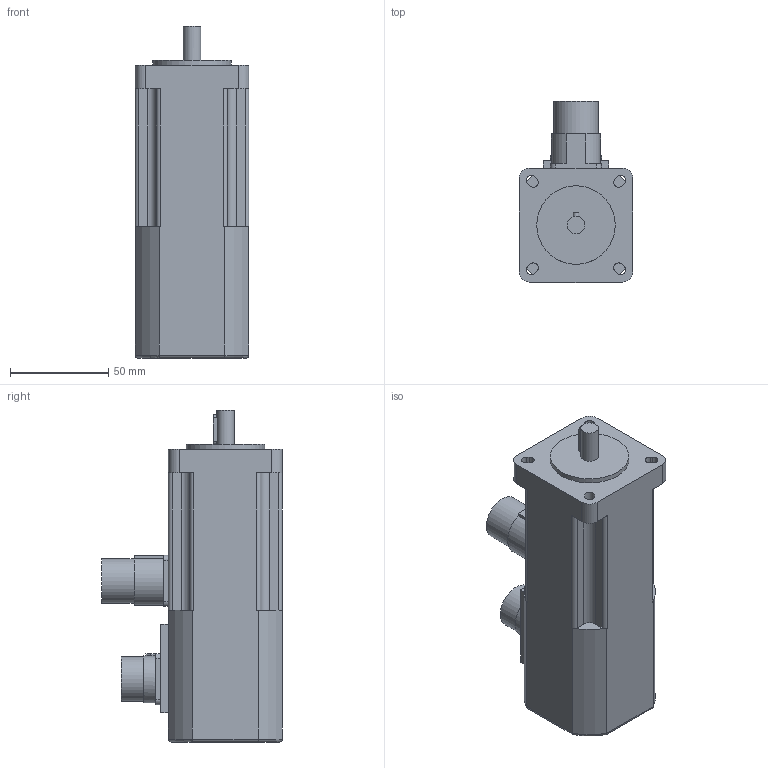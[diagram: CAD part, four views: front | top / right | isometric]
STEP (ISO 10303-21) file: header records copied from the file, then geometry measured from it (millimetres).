
FILE_DESCRIPTION(/* description */ (''),/* implementation_level */ '2;1');
FILE_NAME(/* name */ '\\Lafnas01\disegni\Archivi Lafert\3D\CAD 3D\MODELLI\Assiemi clienti\Serad\Modelli 3D Serad\B28I\Encoder\Enc Without Brake\B28D2Ixx4ARx0033.ipt.stp',/* time_stamp */ '2015-09-07T10:48:01+02:00',/* author */ ('Pastrello Ylenia'),/* organization */ (''),/* preprocessor_version */ 'ST-DEVELOPER v15.6',/* originating_system */ 'Autodesk Inventor 2015',/* authorisation */ '');
FILE_SCHEMA (('AUTOMOTIVE_DESIGN { 1 0 10303 214 3 1 1 }'));
Length unit declared in the file: millimetre
Products named in the file (1): B28D2Ixx4ARx0033
Bounding box: 58 x 92 x 169 mm (x, y, z)
Volume: 484194.5 mm3; surface area: 45355.2 mm2
Topology: 1 solids, 1 shells, 138 faces, 368 edges, 239 vertices
Faces by surface type: plane 76, cylinder 58, torus 4
Full cylindrical faces by diameter (mm): 9 x1, 22.7 x2, 24 x1, 40 x1
Entity records: 4389 total; most frequent: CARTESIAN_POINT 872, DIRECTION 741, ORIENTED_EDGE 720, EDGE_CURVE 359, AXIS2_PLACEMENT_3D 255, VERTEX_POINT 236, LINE 231, VECTOR 231
